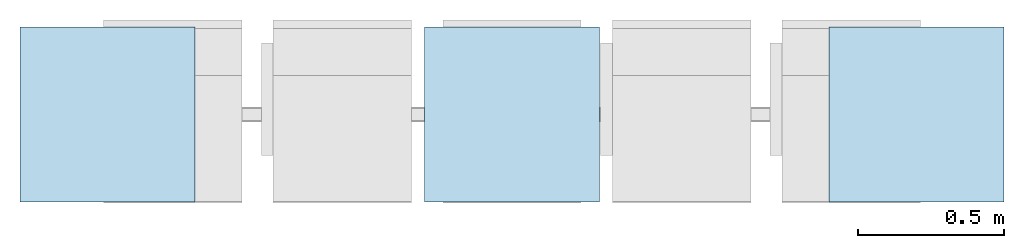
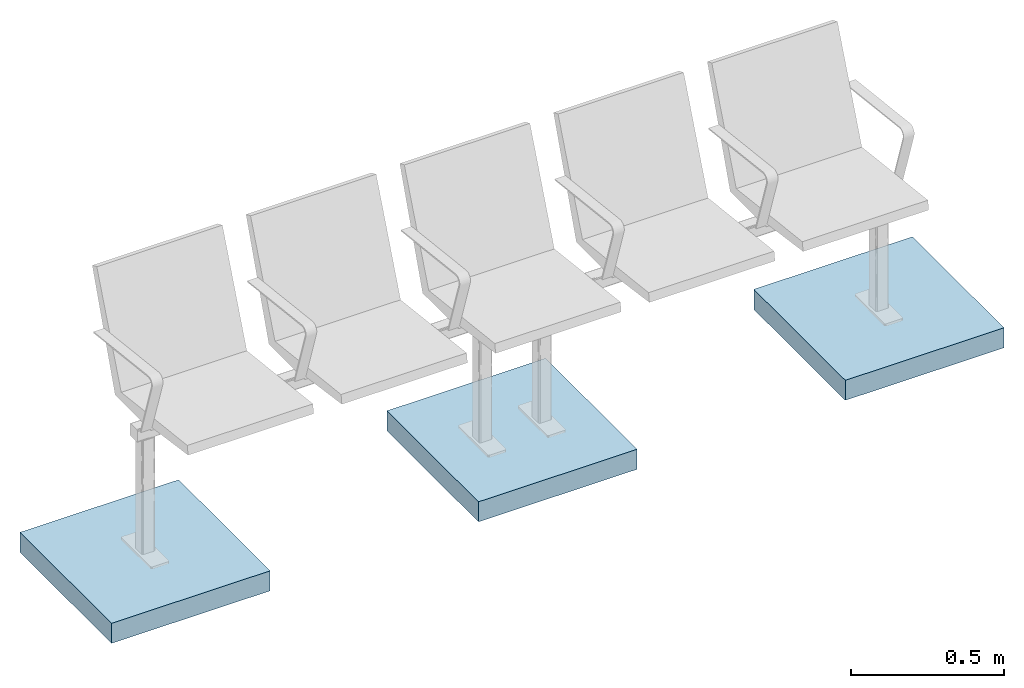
# One storey, incomplete: 3 slabs.
"""IFC4 building model written with IfcOpenShell, lengths in metres."""

from ifc_helpers import new_model, entity, si_unit, converted_unit, direction, frame, frame_2d, origin, origin_2d_with_axis, place, context, subcontext, project, spatial, rectangle, extrude, material, type_object, element, save


model = new_model("IFC4")

# Units and contexts
model_context = context("Model", 3, precision=1e-05, world=origin(), true_north=direction((6.123031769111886e-17, 1.0)))
body_context = subcontext(model_context, "Body", "Model", "MODEL_VIEW")
ifc_project = project(units=[si_unit("LENGTHUNIT", "METRE"), converted_unit("PLANEANGLEUNIT", "DEGREE", entity("IfcPlaneAngleMeasure", 0.017453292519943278), si_unit("PLANEANGLEUNIT", "RADIAN"), dimensions=[0, 0, 0, 0, 0, 0, 0]), si_unit("AREAUNIT", "SQUARE_METRE")], contexts=[model_context])

# Site, building, storey
site_placement = place(None, origin())
site = spatial("IfcSite", under=ifc_project, at=site_placement, Name="Default", CompositionType="ELEMENT")
building_placement = place(site_placement, origin())
building = spatial("IfcBuilding", under=site, at=building_placement, CompositionType="ELEMENT")
storey_placement = place(building_placement, origin())
storey = spatial("IfcBuildingStorey", under=building, at=storey_placement, Name="DB_Bezugshoehe_max_Bahnsteigkante", CompositionType="ELEMENT", Elevation=0.0)

# Slabs
ifc_material = material(Name="DB_Fertigbeton", Category="DB_Beton")
slab_type = type_object("IfcSlabType", Name="DB_Sitzbank_Fundament:DB_Sitzbank_Fundament", PredefinedType="BASESLAB", material=ifc_material)
slab_1_placement = place(storey_placement, origin())
element("IfcSlab", 1, at=slab_1_placement, inside=storey, type_object=slab_type, Name="DB_Sitzbank_Fundament:DB_Sitzbank_Fundament", ObjectType="DB_Sitzbank_Fundament:DB_Sitzbank_Fundament", PredefinedType="BASESLAB", context=body_context, shape_type="SweptSolid", body=[
    extrude(rectangle(XDim=0.5999999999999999, YDim=0.5999999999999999, at=frame_2d((0.0, 1.3877787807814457e-16), x_axis=(1.0, 0.0))), frame((-1.3875000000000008, -0.009999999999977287, -0.25), z_axis=(0.0, 0.0, 1.0), x_axis=(0.0, 1.0, 0.0)), (0.0, 0.0, 1.0), 0.08000000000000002),
])
slab_2_placement = place(storey_placement, origin())
element("IfcSlab", 2, at=slab_2_placement, inside=storey, type_object=slab_type, Name="DB_Sitzbank_Fundament:DB_Sitzbank_Fundament", ObjectType="DB_Sitzbank_Fundament:DB_Sitzbank_Fundament", PredefinedType="BASESLAB", context=body_context, shape_type="SweptSolid", body=[
    extrude(rectangle(XDim=0.5999999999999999, YDim=0.5999999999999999, at=origin_2d_with_axis()), frame((0.0, -0.009999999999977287, -0.25), z_axis=(0.0, 0.0, 1.0), x_axis=(0.0, 1.0, 0.0)), (0.0, 0.0, 1.0), 0.08000000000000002),
])
slab_3_placement = place(storey_placement, origin())
element("IfcSlab", 3, at=slab_3_placement, inside=storey, type_object=slab_type, Name="DB_Sitzbank_Fundament:DB_Sitzbank_Fundament", ObjectType="DB_Sitzbank_Fundament:DB_Sitzbank_Fundament", PredefinedType="BASESLAB", context=body_context, shape_type="SweptSolid", body=[
    extrude(rectangle(XDim=0.5999999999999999, YDim=0.5999999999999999, at=frame_2d((0.0, -8.326672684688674e-17), x_axis=(1.0, 0.0))), frame((1.3875000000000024, -0.009999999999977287, -0.25), z_axis=(0.0, 0.0, 1.0), x_axis=(0.0, 1.0, 0.0)), (0.0, 0.0, 1.0), 0.08000000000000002),
])

save(model, "model.ifc")
